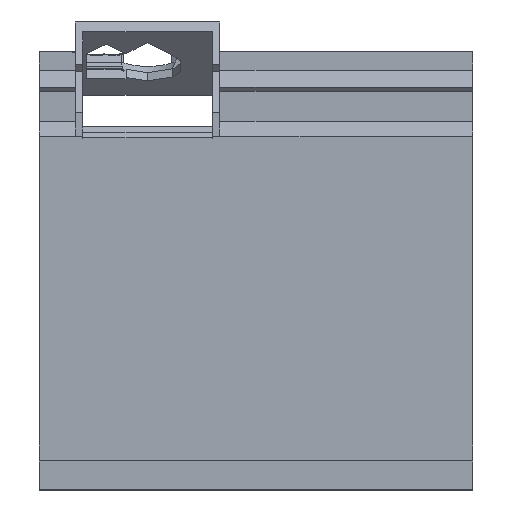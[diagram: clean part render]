
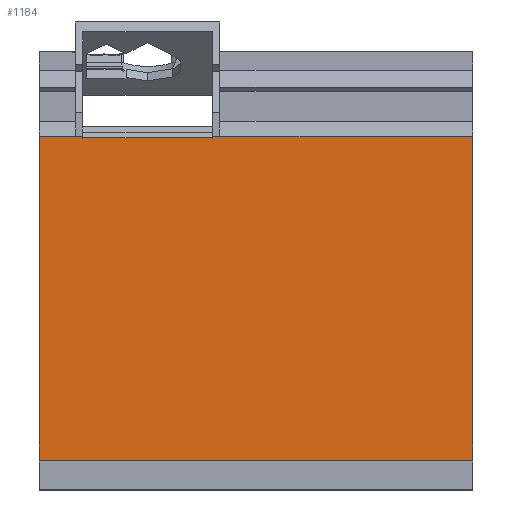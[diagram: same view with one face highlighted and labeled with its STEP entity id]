
A CAD part, top view. The second image highlights one B-rep face of the part: STEP entity #1184.
In plain terms, the highlighted planar face has unit normal (0, 0, 1).
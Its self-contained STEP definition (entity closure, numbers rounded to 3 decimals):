
#32 = PLANE('',#33);
#33 = AXIS2_PLACEMENT_3D('',#34,#35,#36);
#34 = CARTESIAN_POINT('',(-116.,-190.,0.));
#35 = DIRECTION('',(1.,0.,-0.));
#36 = DIRECTION('',(0.,0.,1.));
#756 = VERTEX_POINT('',#757);
#757 = CARTESIAN_POINT('',(-116.,-158.5,32.));
#770 = PLANE('',#771);
#771 = AXIS2_PLACEMENT_3D('',#772,#773,#774);
#772 = CARTESIAN_POINT('',(-174.5,-158.5,1.));
#773 = DIRECTION('',(0.,1.,0.));
#774 = DIRECTION('',(1.,0.,0.));
#781 = EDGE_CURVE('',#756,#782,#784,.T.);
#782 = VERTEX_POINT('',#783);
#783 = CARTESIAN_POINT('',(-116.,-176.5,32.));
#784 = SURFACE_CURVE('',#785,(#789,#795),.PCURVE_S1.);
#785 = LINE('',#786,#787);
#786 = CARTESIAN_POINT('',(-116.,-96.459,32.));
#787 = VECTOR('',#788,1.);
#788 = DIRECTION('',(0.,-1.,0.));
#789 = PCURVE('',#32,#790);
#790 = DEFINITIONAL_REPRESENTATION('',(#791),#794);
#791 = B_SPLINE_CURVE_WITH_KNOTS('',1,(#792,#793),.UNSPECIFIED.,.F.,.F.,
  (2,2),(62.041,80.041),.PIECEWISE_BEZIER_KNOTS.);
#792 = CARTESIAN_POINT('',(32.,-31.5));
#793 = CARTESIAN_POINT('',(32.,-13.5));
#794 = ( GEOMETRIC_REPRESENTATION_CONTEXT(2) 
PARAMETRIC_REPRESENTATION_CONTEXT() REPRESENTATION_CONTEXT('2D SPACE',''
  ) );
#795 = PCURVE('',#796,#801);
#796 = PLANE('',#797);
#797 = AXIS2_PLACEMENT_3D('',#798,#799,#800);
#798 = CARTESIAN_POINT('',(0.,-2.917,32.));
#799 = DIRECTION('',(0.,0.,1.));
#800 = DIRECTION('',(1.,0.,-0.));
#801 = DEFINITIONAL_REPRESENTATION('',(#802),#805);
#802 = B_SPLINE_CURVE_WITH_KNOTS('',1,(#803,#804),.UNSPECIFIED.,.F.,.F.,
  (2,2),(62.041,80.041),.PIECEWISE_BEZIER_KNOTS.);
#803 = CARTESIAN_POINT('',(-116.,-155.583));
#804 = CARTESIAN_POINT('',(-116.,-173.583));
#805 = ( GEOMETRIC_REPRESENTATION_CONTEXT(2) 
PARAMETRIC_REPRESENTATION_CONTEXT() REPRESENTATION_CONTEXT('2D SPACE',''
  ) );
#822 = PLANE('',#823);
#823 = AXIS2_PLACEMENT_3D('',#824,#825,#826);
#824 = CARTESIAN_POINT('',(-192.5,-176.5,29.));
#825 = DIRECTION('',(0.,1.,0.));
#826 = DIRECTION('',(1.,0.,0.));
#937 = PLANE('',#938);
#938 = AXIS2_PLACEMENT_3D('',#939,#940,#941);
#939 = CARTESIAN_POINT('',(-92.,-190.,0.));
#940 = DIRECTION('',(1.,0.,-0.));
#941 = DIRECTION('',(0.,0.,1.));
#1142 = VERTEX_POINT('',#1143);
#1143 = CARTESIAN_POINT('',(-92.,-176.5,32.));
#1162 = EDGE_CURVE('',#1142,#782,#1163,.T.);
#1163 = SURFACE_CURVE('',#1164,(#1168,#1175),.PCURVE_S1.);
#1164 = LINE('',#1165,#1166);
#1165 = CARTESIAN_POINT('',(-96.25,-176.5,32.));
#1166 = VECTOR('',#1167,1.);
#1167 = DIRECTION('',(-1.,0.,0.));
#1168 = PCURVE('',#822,#1169);
#1169 = DEFINITIONAL_REPRESENTATION('',(#1170),#1174);
#1170 = LINE('',#1171,#1172);
#1171 = CARTESIAN_POINT('',(96.25,-3.));
#1172 = VECTOR('',#1173,1.);
#1173 = DIRECTION('',(-1.,0.));
#1174 = ( GEOMETRIC_REPRESENTATION_CONTEXT(2) 
PARAMETRIC_REPRESENTATION_CONTEXT() REPRESENTATION_CONTEXT('2D SPACE',''
  ) );
#1175 = PCURVE('',#796,#1176);
#1176 = DEFINITIONAL_REPRESENTATION('',(#1177),#1181);
#1177 = LINE('',#1178,#1179);
#1178 = CARTESIAN_POINT('',(-96.25,-173.583));
#1179 = VECTOR('',#1180,1.);
#1180 = DIRECTION('',(-1.,0.));
#1181 = ( GEOMETRIC_REPRESENTATION_CONTEXT(2) 
PARAMETRIC_REPRESENTATION_CONTEXT() REPRESENTATION_CONTEXT('2D SPACE',''
  ) );
#1184 = ADVANCED_FACE('',(#1185),#796,.T.);
#1185 = FACE_BOUND('',#1186,.T.);
#1186 = EDGE_LOOP('',(#1187,#1188,#1209,#1237,#1265,#1293,#1321,#1342));
#1187 = ORIENTED_EDGE('',*,*,#1162,.F.);
#1188 = ORIENTED_EDGE('',*,*,#1189,.F.);
#1189 = EDGE_CURVE('',#1190,#1142,#1192,.T.);
#1190 = VERTEX_POINT('',#1191);
#1191 = CARTESIAN_POINT('',(-92.,-158.5,32.));
#1192 = SURFACE_CURVE('',#1193,(#1197,#1203),.PCURVE_S1.);
#1193 = LINE('',#1194,#1195);
#1194 = CARTESIAN_POINT('',(-92.,-96.459,32.));
#1195 = VECTOR('',#1196,1.);
#1196 = DIRECTION('',(0.,-1.,0.));
#1197 = PCURVE('',#796,#1198);
#1198 = DEFINITIONAL_REPRESENTATION('',(#1199),#1202);
#1199 = B_SPLINE_CURVE_WITH_KNOTS('',1,(#1200,#1201),.UNSPECIFIED.,.F.,
  .F.,(2,2),(62.041,80.041),.PIECEWISE_BEZIER_KNOTS.);
#1200 = CARTESIAN_POINT('',(-92.,-155.583));
#1201 = CARTESIAN_POINT('',(-92.,-173.583));
#1202 = ( GEOMETRIC_REPRESENTATION_CONTEXT(2) 
PARAMETRIC_REPRESENTATION_CONTEXT() REPRESENTATION_CONTEXT('2D SPACE',''
  ) );
#1203 = PCURVE('',#937,#1204);
#1204 = DEFINITIONAL_REPRESENTATION('',(#1205),#1208);
#1205 = B_SPLINE_CURVE_WITH_KNOTS('',1,(#1206,#1207),.UNSPECIFIED.,.F.,
  .F.,(2,2),(62.041,80.041),.PIECEWISE_BEZIER_KNOTS.);
#1206 = CARTESIAN_POINT('',(32.,-31.5));
#1207 = CARTESIAN_POINT('',(32.,-13.5));
#1208 = ( GEOMETRIC_REPRESENTATION_CONTEXT(2) 
PARAMETRIC_REPRESENTATION_CONTEXT() REPRESENTATION_CONTEXT('2D SPACE',''
  ) );
#1209 = ORIENTED_EDGE('',*,*,#1210,.T.);
#1210 = EDGE_CURVE('',#1190,#1211,#1213,.T.);
#1211 = VERTEX_POINT('',#1212);
#1212 = CARTESIAN_POINT('',(-106.4,-158.5,32.));
#1213 = SURFACE_CURVE('',#1214,(#1218,#1225),.PCURVE_S1.);
#1214 = LINE('',#1215,#1216);
#1215 = CARTESIAN_POINT('',(-87.25,-158.5,32.));
#1216 = VECTOR('',#1217,1.);
#1217 = DIRECTION('',(-1.,0.,0.));
#1218 = PCURVE('',#796,#1219);
#1219 = DEFINITIONAL_REPRESENTATION('',(#1220),#1224);
#1220 = LINE('',#1221,#1222);
#1221 = CARTESIAN_POINT('',(-87.25,-155.583));
#1222 = VECTOR('',#1223,1.);
#1223 = DIRECTION('',(-1.,0.));
#1224 = ( GEOMETRIC_REPRESENTATION_CONTEXT(2) 
PARAMETRIC_REPRESENTATION_CONTEXT() REPRESENTATION_CONTEXT('2D SPACE',''
  ) );
#1225 = PCURVE('',#1226,#1231);
#1226 = PLANE('',#1227);
#1227 = AXIS2_PLACEMENT_3D('',#1228,#1229,#1230);
#1228 = CARTESIAN_POINT('',(-174.5,-158.5,1.));
#1229 = DIRECTION('',(0.,1.,0.));
#1230 = DIRECTION('',(1.,0.,0.));
#1231 = DEFINITIONAL_REPRESENTATION('',(#1232),#1236);
#1232 = LINE('',#1233,#1234);
#1233 = CARTESIAN_POINT('',(87.25,-31.));
#1234 = VECTOR('',#1235,1.);
#1235 = DIRECTION('',(-1.,0.));
#1236 = ( GEOMETRIC_REPRESENTATION_CONTEXT(2) 
PARAMETRIC_REPRESENTATION_CONTEXT() REPRESENTATION_CONTEXT('2D SPACE',''
  ) );
#1237 = ORIENTED_EDGE('',*,*,#1238,.F.);
#1238 = EDGE_CURVE('',#1239,#1211,#1241,.T.);
#1239 = VERTEX_POINT('',#1240);
#1240 = CARTESIAN_POINT('',(-106.4,-158.597,32.));
#1241 = SURFACE_CURVE('',#1242,(#1246,#1253),.PCURVE_S1.);
#1242 = LINE('',#1243,#1244);
#1243 = CARTESIAN_POINT('',(-106.4,-78.067,32.));
#1244 = VECTOR('',#1245,1.);
#1245 = DIRECTION('',(0.,1.,0.));
#1246 = PCURVE('',#796,#1247);
#1247 = DEFINITIONAL_REPRESENTATION('',(#1248),#1252);
#1248 = LINE('',#1249,#1250);
#1249 = CARTESIAN_POINT('',(-106.4,-75.15));
#1250 = VECTOR('',#1251,1.);
#1251 = DIRECTION('',(0.,1.));
#1252 = ( GEOMETRIC_REPRESENTATION_CONTEXT(2) 
PARAMETRIC_REPRESENTATION_CONTEXT() REPRESENTATION_CONTEXT('2D SPACE',''
  ) );
#1253 = PCURVE('',#1254,#1259);
#1254 = PLANE('',#1255);
#1255 = AXIS2_PLACEMENT_3D('',#1256,#1257,#1258);
#1256 = CARTESIAN_POINT('',(-106.4,-153.217,43.539));
#1257 = DIRECTION('',(1.,0.,0.));
#1258 = DIRECTION('',(0.,0.906,-0.423));
#1259 = DEFINITIONAL_REPRESENTATION('',(#1260),#1264);
#1260 = LINE('',#1261,#1262);
#1261 = CARTESIAN_POINT('',(72.985,21.302));
#1262 = VECTOR('',#1263,1.);
#1263 = DIRECTION('',(0.906,0.423));
#1264 = ( GEOMETRIC_REPRESENTATION_CONTEXT(2) 
PARAMETRIC_REPRESENTATION_CONTEXT() REPRESENTATION_CONTEXT('2D SPACE',''
  ) );
#1265 = ORIENTED_EDGE('',*,*,#1266,.T.);
#1266 = EDGE_CURVE('',#1239,#1267,#1269,.T.);
#1267 = VERTEX_POINT('',#1268);
#1268 = CARTESIAN_POINT('',(-113.6,-158.597,32.));
#1269 = SURFACE_CURVE('',#1270,(#1274,#1281),.PCURVE_S1.);
#1270 = LINE('',#1271,#1272);
#1271 = CARTESIAN_POINT('',(-56.8,-158.597,32.));
#1272 = VECTOR('',#1273,1.);
#1273 = DIRECTION('',(-1.,0.,0.));
#1274 = PCURVE('',#796,#1275);
#1275 = DEFINITIONAL_REPRESENTATION('',(#1276),#1280);
#1276 = LINE('',#1277,#1278);
#1277 = CARTESIAN_POINT('',(-56.8,-155.68));
#1278 = VECTOR('',#1279,1.);
#1279 = DIRECTION('',(-1.,0.));
#1280 = ( GEOMETRIC_REPRESENTATION_CONTEXT(2) 
PARAMETRIC_REPRESENTATION_CONTEXT() REPRESENTATION_CONTEXT('2D SPACE',''
  ) );
#1281 = PCURVE('',#1282,#1287);
#1282 = PLANE('',#1283);
#1283 = AXIS2_PLACEMENT_3D('',#1284,#1285,#1286);
#1284 = CARTESIAN_POINT('',(-113.6,-153.217,43.539));
#1285 = DIRECTION('',(0.,0.906,-0.423));
#1286 = DIRECTION('',(1.,0.,0.));
#1287 = DEFINITIONAL_REPRESENTATION('',(#1288),#1292);
#1288 = LINE('',#1289,#1290);
#1289 = CARTESIAN_POINT('',(56.8,12.731));
#1290 = VECTOR('',#1291,1.);
#1291 = DIRECTION('',(-1.,-0.));
#1292 = ( GEOMETRIC_REPRESENTATION_CONTEXT(2) 
PARAMETRIC_REPRESENTATION_CONTEXT() REPRESENTATION_CONTEXT('2D SPACE',''
  ) );
#1293 = ORIENTED_EDGE('',*,*,#1294,.T.);
#1294 = EDGE_CURVE('',#1267,#1295,#1297,.T.);
#1295 = VERTEX_POINT('',#1296);
#1296 = CARTESIAN_POINT('',(-113.6,-158.5,32.));
#1297 = SURFACE_CURVE('',#1298,(#1302,#1309),.PCURVE_S1.);
#1298 = LINE('',#1299,#1300);
#1299 = CARTESIAN_POINT('',(-113.6,-78.067,32.));
#1300 = VECTOR('',#1301,1.);
#1301 = DIRECTION('',(0.,1.,0.));
#1302 = PCURVE('',#796,#1303);
#1303 = DEFINITIONAL_REPRESENTATION('',(#1304),#1308);
#1304 = LINE('',#1305,#1306);
#1305 = CARTESIAN_POINT('',(-113.6,-75.15));
#1306 = VECTOR('',#1307,1.);
#1307 = DIRECTION('',(0.,1.));
#1308 = ( GEOMETRIC_REPRESENTATION_CONTEXT(2) 
PARAMETRIC_REPRESENTATION_CONTEXT() REPRESENTATION_CONTEXT('2D SPACE',''
  ) );
#1309 = PCURVE('',#1310,#1315);
#1310 = PLANE('',#1311);
#1311 = AXIS2_PLACEMENT_3D('',#1312,#1313,#1314);
#1312 = CARTESIAN_POINT('',(-113.6,-153.217,43.539));
#1313 = DIRECTION('',(1.,0.,0.));
#1314 = DIRECTION('',(0.,0.906,-0.423));
#1315 = DEFINITIONAL_REPRESENTATION('',(#1316),#1320);
#1316 = LINE('',#1317,#1318);
#1317 = CARTESIAN_POINT('',(72.985,21.302));
#1318 = VECTOR('',#1319,1.);
#1319 = DIRECTION('',(0.906,0.423));
#1320 = ( GEOMETRIC_REPRESENTATION_CONTEXT(2) 
PARAMETRIC_REPRESENTATION_CONTEXT() REPRESENTATION_CONTEXT('2D SPACE',''
  ) );
#1321 = ORIENTED_EDGE('',*,*,#1322,.T.);
#1322 = EDGE_CURVE('',#1295,#756,#1323,.T.);
#1323 = SURFACE_CURVE('',#1324,(#1328,#1335),.PCURVE_S1.);
#1324 = LINE('',#1325,#1326);
#1325 = CARTESIAN_POINT('',(-87.25,-158.5,32.));
#1326 = VECTOR('',#1327,1.);
#1327 = DIRECTION('',(-1.,0.,0.));
#1328 = PCURVE('',#796,#1329);
#1329 = DEFINITIONAL_REPRESENTATION('',(#1330),#1334);
#1330 = LINE('',#1331,#1332);
#1331 = CARTESIAN_POINT('',(-87.25,-155.583));
#1332 = VECTOR('',#1333,1.);
#1333 = DIRECTION('',(-1.,0.));
#1334 = ( GEOMETRIC_REPRESENTATION_CONTEXT(2) 
PARAMETRIC_REPRESENTATION_CONTEXT() REPRESENTATION_CONTEXT('2D SPACE',''
  ) );
#1335 = PCURVE('',#770,#1336);
#1336 = DEFINITIONAL_REPRESENTATION('',(#1337),#1341);
#1337 = LINE('',#1338,#1339);
#1338 = CARTESIAN_POINT('',(87.25,-31.));
#1339 = VECTOR('',#1340,1.);
#1340 = DIRECTION('',(-1.,0.));
#1341 = ( GEOMETRIC_REPRESENTATION_CONTEXT(2) 
PARAMETRIC_REPRESENTATION_CONTEXT() REPRESENTATION_CONTEXT('2D SPACE',''
  ) );
#1342 = ORIENTED_EDGE('',*,*,#781,.T.);
